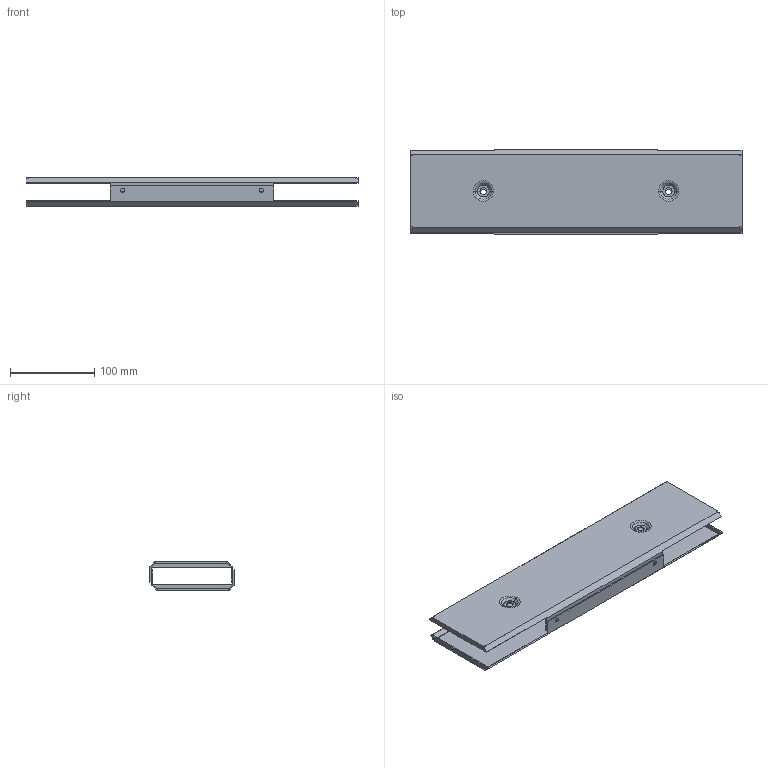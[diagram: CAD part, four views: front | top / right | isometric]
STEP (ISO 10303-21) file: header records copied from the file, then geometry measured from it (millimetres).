
FILE_DESCRIPTION (( 'STEP AP214' ), '1' );
FILE_NAME ('FO-00D-PC-010-040-7021 Êîìïëåêò ïàíåëè öîêîëÿ 100õ400ìì RAL7021 (2 øò.êîìïë.).STEP', '2025-07-30T09:55:27', ( '' ), ( '' ), 'SwSTEP 2.0', 'SolidWorks 2023', '' );
FILE_SCHEMA (( 'AUTOMOTIVE_DESIGN' ));
Length unit declared in the file: millimetre
Products named in the file (2): FO-00D-PC-010-040-7021 Комплект панели цоколя 100х400мм RAL7021 (2 шт.компл.); Панель цоколя 100х400мм
Assembly tree (2 placements, depth 2):
  FO-00D-PC-010-040-7021 Комплект панели цоколя 100х400мм RAL7021 (2 шт.компл.)
    Панель цоколя 100х400мм  x2
Bounding box: 395 x 100.29 x 33.48 mm (x, y, z)
Volume: 132929.3 mm3; surface area: 193208.7 mm2
Topology: 2 solids, 2 shells, 204 faces, 512 edges, 320 vertices
Faces by surface type: plane 124, cylinder 32, torus 32, cone 16
Entity records: 3111 total; most frequent: DIRECTION 550, CARTESIAN_POINT 523, ORIENTED_EDGE 512, EDGE_CURVE 256, AXIS2_PLACEMENT_3D 187, LINE 176, VECTOR 176, VERTEX_POINT 160
